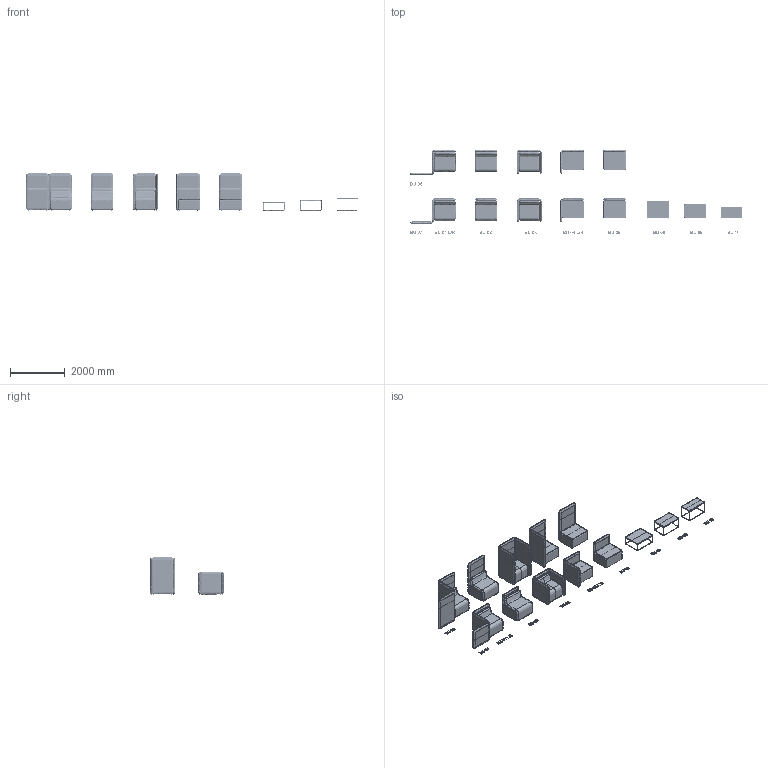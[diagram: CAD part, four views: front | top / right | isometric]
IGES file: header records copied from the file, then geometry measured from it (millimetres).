
Global section: file name: C:\KLIMO\KLIMO\work\1. PRACA\B. Clients\MMINTERIER\3. BUNKER\rhina\mminterier modely\BUNKER BU 01 - BU 10.igs; native system: Rhinoceros ( Jul  9 2009 ); preprocessor: Trout Lake IGES 012 Jul  9 2009; date: 141211.142539; units: millimetre
Bounding box: 12160.02 x 3079.09 x 1359.42 mm (x, y, z)
Surface area: 81016434.3 mm2 (no closed solid volume)
Topology: 0 solids, 0 shells, 1719 faces, 12507 edges, 12166 vertices
Faces by surface type: bspline 1719
